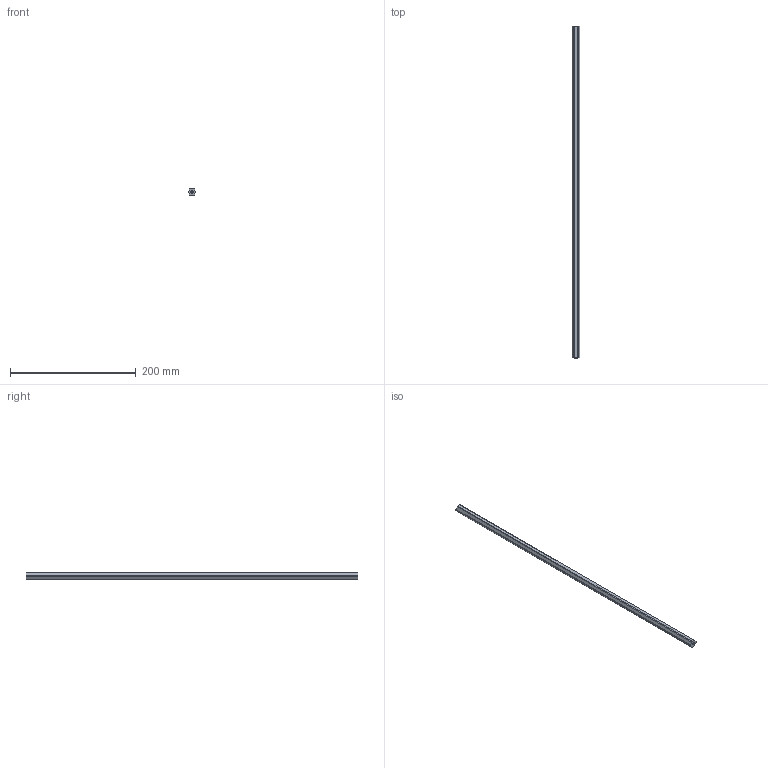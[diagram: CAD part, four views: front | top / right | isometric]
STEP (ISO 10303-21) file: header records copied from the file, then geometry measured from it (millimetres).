
FILE_DESCRIPTION (( 'STEP AP203' ), '1' );
FILE_NAME ('2104-0012-0528.STEP', '2018-03-09T17:46:17', ( '' ), ( '' ), 'SwSTEP 2.0', 'SolidWorks 2016', '' );
FILE_SCHEMA (( 'CONFIG_CONTROL_DESIGN' ));
Length unit declared in the file: millimetre
Products named in the file (1): 2104-0012-0528
Bounding box: 11.99 x 528 x 11 mm (x, y, z)
Volume: 50043.6 mm3; surface area: 25338.8 mm2
Topology: 1 solids, 1 shells, 190 faces, 558 edges, 370 vertices
Faces by surface type: cylinder 168, plane 10, cone 8, bspline 4
Entity records: 11993 total; most frequent: CARTESIAN_POINT 7843, ORIENTED_EDGE 1116, DIRECTION 624, EDGE_CURVE 558, VERTEX_POINT 370, AXIS2_PLACEMENT_3D 217, EDGE_LOOP 192, ADVANCED_FACE 190
